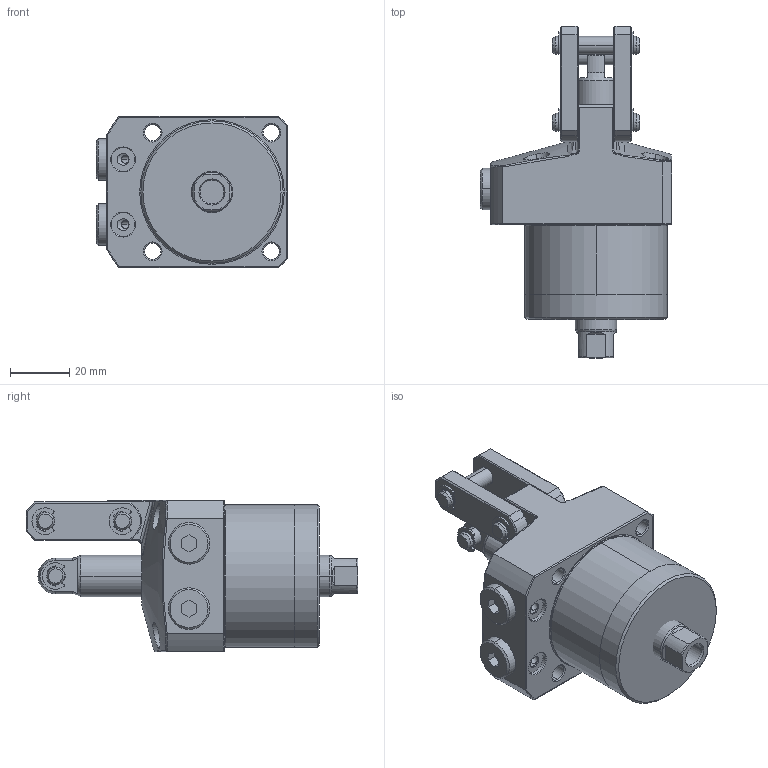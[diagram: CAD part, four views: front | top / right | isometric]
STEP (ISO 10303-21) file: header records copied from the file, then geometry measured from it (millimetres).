
FILE_DESCRIPTION(/* description */ (''),/* implementation_level */ '2;1');
FILE_NAME(/* name */ 'KTPC48-RD.stp',/* time_stamp */ '2022-11-19T07:29:13+08:00',/* author */ (''),/* organization */ (''),/* preprocessor_version */ 'ST-DEVELOPER v16.7',/* originating_system */ 'SIEMENS PLM Software NX 12.0',/* authorisation */ '');
FILE_SCHEMA (('AP203_CONFIGURATION_CONTROLLED_3D_DESIGN_OF_MECHANICAL_PARTS_AND_ASSEMBLIES_MIM_LF { 1 0 10303 403 2 1 2}'));
Length unit declared in the file: millimetre
Products named in the file (9): KTPC48-RD-02; KTPC48-RD-01; KTPC48-RD-07; KTPC48-RD-08; KTPC48-RD-05; KTPC48-RD-03; KTPC48-RD-04; KTPC48-RD-06; LKA0480-CRD_step
Assembly tree (16 placements, depth 2):
  LKA0480-CRD_step
    KTPC48-RD-06  x6
    KTPC48-RD-04  x2
    KTPC48-RD-03
    KTPC48-RD-05  x2
    KTPC48-RD-08  x2
    KTPC48-RD-07
    KTPC48-RD-01
    KTPC48-RD-02
Bounding box: 64.5 x 112 x 51 mm (x, y, z)
Volume: 191390.7 mm3; surface area: 37285.6 mm2
Topology: 16 solids, 16 shells, 587 faces, 1417 edges, 885 vertices
Faces by surface type: cylinder 244, plane 185, cone 75, torus 64, bspline 17, sphere 2
Full cylindrical faces by diameter (mm): 48 x1
Entity records: 12404 total; most frequent: CARTESIAN_POINT 3149, DIRECTION 1749, ORIENTED_EDGE 1622, EDGE_CURVE 811, AXIS2_PLACEMENT_3D 713, VERTEX_POINT 499, EDGE_LOOP 392, CIRCLE 363
